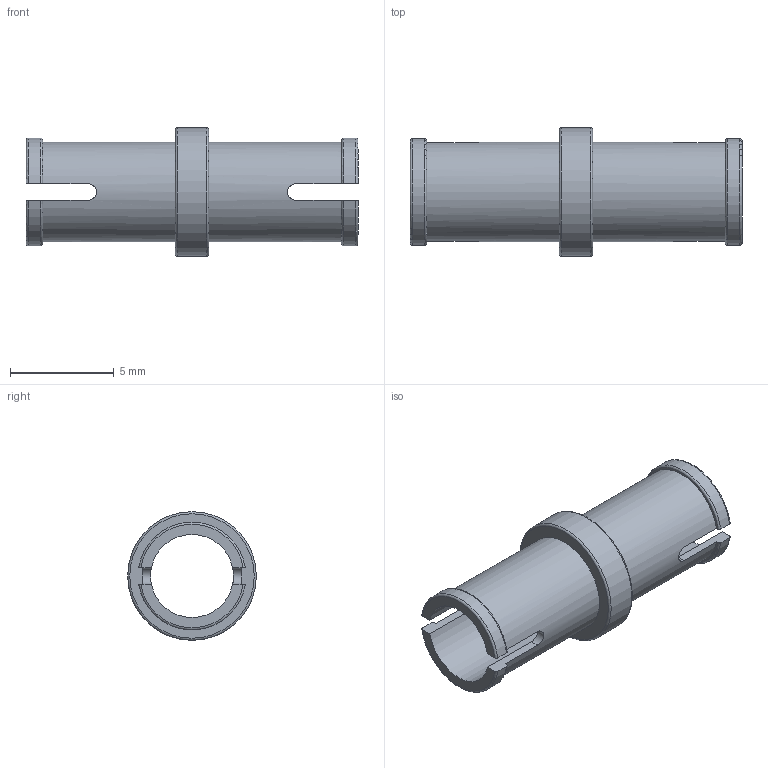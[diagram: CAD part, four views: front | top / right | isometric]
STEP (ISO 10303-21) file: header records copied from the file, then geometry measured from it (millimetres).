
FILE_DESCRIPTION(/* description */ ('Unknown'),/* implementation_level */ '2;1');
FILE_NAME(/* name */ 'ClGray_4211807_MCM',/* time_stamp */ '2025-07-21T23:53:33+02:00',/* author */ ('Unknown'),/* organization */ ('Unknown'),/* preprocessor_version */ 'ST-DEVELOPER v19.4',/* originating_system */ 'Solid Edge',/* authorisation */ 'Unknown');
FILE_SCHEMA (('AUTOMOTIVE_DESIGN {1 0 10303 214 3 1 1}'));
Length unit declared in the file: millimetre
Products named in the file (1): ClGray_4211807_MCM
Bounding box: 16 x 6.2 x 6.2 mm (x, y, z)
Volume: 107.9 mm3; surface area: 484.2 mm2
Topology: 1 solids, 1 shells, 40 faces, 111 edges, 73 vertices
Faces by surface type: plane 18, cylinder 12, torus 10
Full cylindrical faces by diameter (mm): 4 x1, 4.8 x2, 6.2 x1
Entity records: 1290 total; most frequent: CARTESIAN_POINT 293, ORIENTED_EDGE 204, DIRECTION 190, EDGE_CURVE 102, AXIS2_PLACEMENT_3D 71, VERTEX_POINT 70, LINE 48, VECTOR 48
